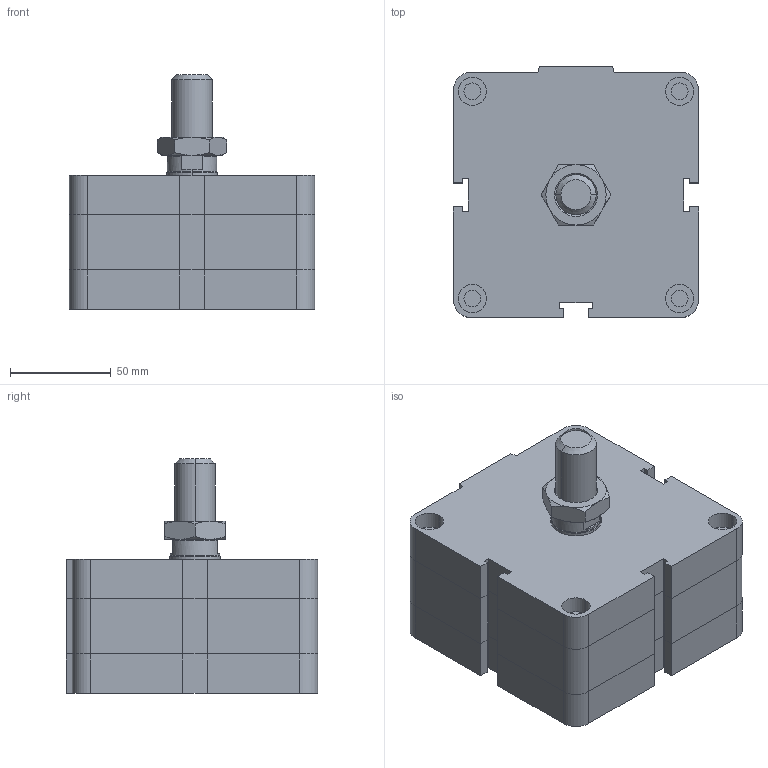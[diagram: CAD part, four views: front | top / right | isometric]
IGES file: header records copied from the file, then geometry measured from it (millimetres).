
Global section: file name: No Iges File Name specified; native system: Autodesk Inventor 2009; preprocessor: AutoDesk Inventor Iges Exporter R2009; author: rivolro1; date: 20081219.162755; units: millimetre
Bounding box: 122 x 125 x 116.5 mm (x, y, z)
Volume: 974247.1 mm3; surface area: 82218.7 mm2
Topology: 3 solids, 3 shells, 216 faces, 472 edges, 282 vertices
Faces by surface type: plane 121, bspline 37, cylinder 20, cone 20, revolution 18
